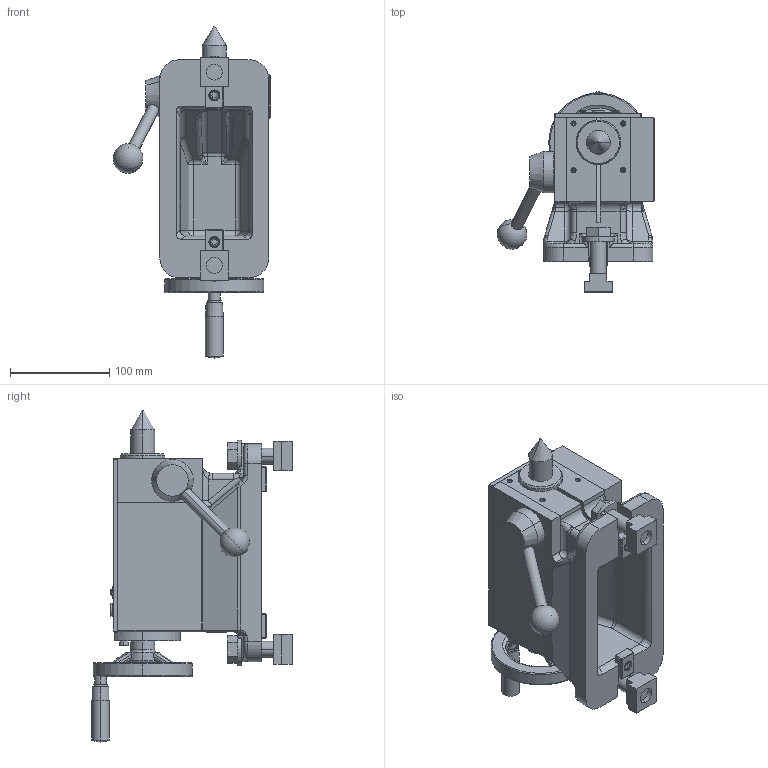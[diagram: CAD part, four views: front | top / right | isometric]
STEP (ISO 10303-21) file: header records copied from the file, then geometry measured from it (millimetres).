
FILE_DESCRIPTION (( 'STEP AP214' ), '1' );
FILE_NAME ('TS160RN.STEP', '2020-03-11T06:08:38', ( '' ), ( '' ), 'SwSTEP 2.0', 'SolidWorks 2017', '' );
FILE_SCHEMA (( 'AUTOMOTIVE_DESIGN' ));
Length unit declared in the file: millimetre
Products named in the file (13): CLAMPING PARTS(61E435875)結合; TS160RNホンタイ; ネームプレート(61E4736691); センタソケット; クランプレバー(61E4279111); 僴儞僪儂僀乕儖S100(61E427915); ブラケット(61E4279093); カバー(61E449555); クランププレートＢ(61E427913); クランププレートＡ(61E427912); ガイドブロック(61M4197783); ボデー(61E2465832)TS160RN; TS160RN
Assembly tree (14 placements, depth 3):
  TS160RN
    TS160RNホンタイ
      ボデー(61E2465832)TS160RN
      ガイドブロック(61M4197783)  x2
      クランププレートＡ(61E427912)
      クランププレートＢ(61E427913)
      カバー(61E449555)
      ブラケット(61E4279093)
      僴儞僪儂僀乕儖S100(61E427915)
      クランプレバー(61E4279111)
      センタソケット
      ネームプレート(61E4736691)
    CLAMPING PARTS(61E435875)結合  x2
Bounding box: 159.05 x 202.5 x 335.01 mm (x, y, z)
Volume: 2137440.2 mm3; surface area: 336574.8 mm2
Topology: 13 solids, 13 shells, 2130 faces, 5791 edges, 3756 vertices
Faces by surface type: plane 1689, cylinder 246, bspline 77, cone 62, torus 36, sphere 20
Entity records: 71558 total; most frequent: CARTESIAN_POINT 15457, ORIENTED_EDGE 11188, DIRECTION 9952, EDGE_CURVE 5594, LINE 4810, VECTOR 4810, VERTEX_POINT 3655, AXIS2_PLACEMENT_3D 2571
